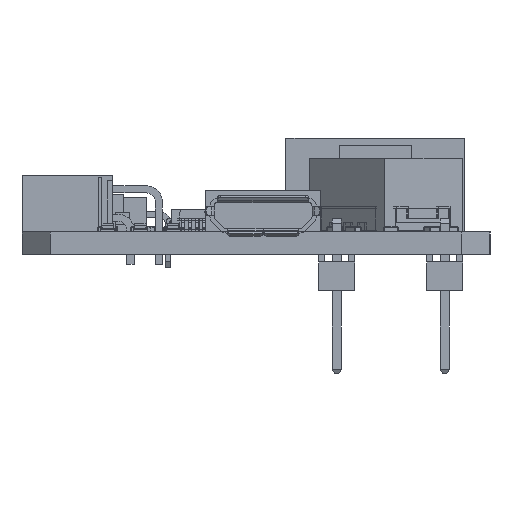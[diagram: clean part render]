
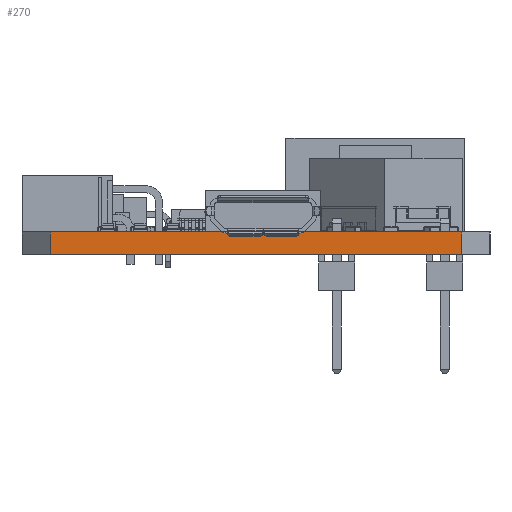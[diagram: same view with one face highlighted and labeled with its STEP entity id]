
A CAD part, left-side view. The second image highlights one B-rep face of the part: STEP entity #270.
In plain terms, the highlighted planar face has unit normal (-1, 0, 0).
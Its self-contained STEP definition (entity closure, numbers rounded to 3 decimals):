
#245 = VERTEX_POINT('',#246);
#246 = CARTESIAN_POINT('',(-71.296,2.,1.61));
#252 = EDGE_CURVE('',#253,#245,#255,.T.);
#253 = VERTEX_POINT('',#254);
#254 = CARTESIAN_POINT('',(-71.296,2.,0.));
#255 = LINE('',#256,#257);
#256 = CARTESIAN_POINT('',(-71.296,2.,0.));
#257 = VECTOR('',#258,1.);
#258 = DIRECTION('',(0.,0.,1.));
#270 = ADVANCED_FACE('',(#271),#296,.T.);
#271 = FACE_BOUND('',#272,.T.);
#272 = EDGE_LOOP('',(#273,#274,#282,#290));
#273 = ORIENTED_EDGE('',*,*,#252,.T.);
#274 = ORIENTED_EDGE('',*,*,#275,.T.);
#275 = EDGE_CURVE('',#245,#276,#278,.T.);
#276 = VERTEX_POINT('',#277);
#277 = CARTESIAN_POINT('',(-71.296,31.,1.61));
#278 = LINE('',#279,#280);
#279 = CARTESIAN_POINT('',(-71.296,2.,1.61));
#280 = VECTOR('',#281,1.);
#281 = DIRECTION('',(0.,1.,0.));
#282 = ORIENTED_EDGE('',*,*,#283,.F.);
#283 = EDGE_CURVE('',#284,#276,#286,.T.);
#284 = VERTEX_POINT('',#285);
#285 = CARTESIAN_POINT('',(-71.296,31.,0.));
#286 = LINE('',#287,#288);
#287 = CARTESIAN_POINT('',(-71.296,31.,0.));
#288 = VECTOR('',#289,1.);
#289 = DIRECTION('',(0.,0.,1.));
#290 = ORIENTED_EDGE('',*,*,#291,.F.);
#291 = EDGE_CURVE('',#253,#284,#292,.T.);
#292 = LINE('',#293,#294);
#293 = CARTESIAN_POINT('',(-71.296,2.,0.));
#294 = VECTOR('',#295,1.);
#295 = DIRECTION('',(0.,1.,0.));
#296 = PLANE('',#297);
#297 = AXIS2_PLACEMENT_3D('',#298,#299,#300);
#298 = CARTESIAN_POINT('',(-71.296,2.,0.));
#299 = DIRECTION('',(-1.,0.,0.));
#300 = DIRECTION('',(0.,1.,0.));
